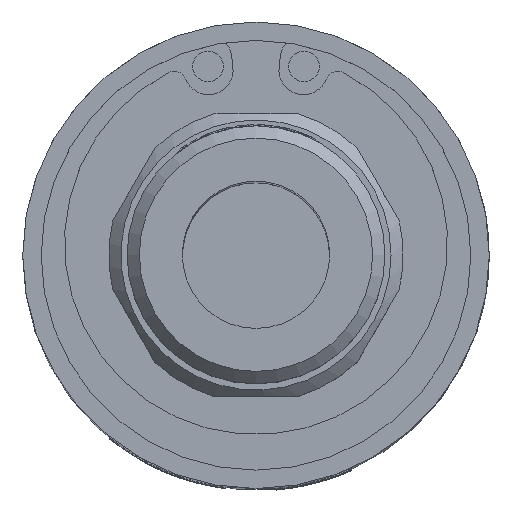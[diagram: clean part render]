
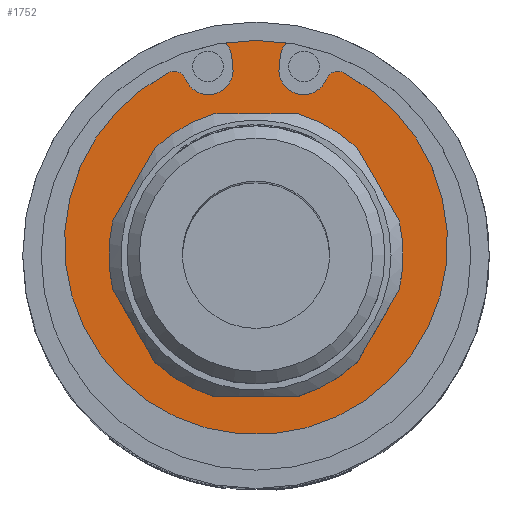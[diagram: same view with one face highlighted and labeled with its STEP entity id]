
A CAD part, top view. The second image highlights one B-rep face of the part: STEP entity #1752.
In plain terms, the highlighted planar face has unit normal (0, 0, 1).
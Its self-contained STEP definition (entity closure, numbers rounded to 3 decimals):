
#208=FACE_BOUND('',#4023,.T.);
#209=FACE_BOUND('',#4024,.T.);
#466=CIRCLE('',#18154,18.5);
#473=CIRCLE('',#18176,2.);
#474=CIRCLE('',#18177,2.);
#475=CIRCLE('',#18178,2.);
#476=CIRCLE('',#18179,1.);
#477=CIRCLE('',#18180,15.6);
#478=CIRCLE('',#18181,1.);
#479=CIRCLE('',#18182,2.);
#480=CIRCLE('',#18183,9.25);
#1752=ADVANCED_FACE('',(#208,#209),#2305,.T.);
#2305=PLANE('',#18184);
#4023=EDGE_LOOP('',(#8836,#8837,#8838,#8839,#8840,#8841,#8842,#8843,#8844,
#8845));
#4024=EDGE_LOOP('',(#8846));
#4576=LINE('',#34044,#5280);
#4577=LINE('',#34056,#5281);
#5280=VECTOR('',#19970,1.);
#5281=VECTOR('',#19981,1.);
#8836=ORIENTED_EDGE('',*,*,#14552,.F.);
#8837=ORIENTED_EDGE('',*,*,#14541,.T.);
#8838=ORIENTED_EDGE('',*,*,#14553,.T.);
#8839=ORIENTED_EDGE('',*,*,#14554,.F.);
#8840=ORIENTED_EDGE('',*,*,#14555,.F.);
#8841=ORIENTED_EDGE('',*,*,#14556,.T.);
#8842=ORIENTED_EDGE('',*,*,#14557,.F.);
#8843=ORIENTED_EDGE('',*,*,#14558,.F.);
#8844=ORIENTED_EDGE('',*,*,#14559,.T.);
#8845=ORIENTED_EDGE('',*,*,#14560,.T.);
#8846=ORIENTED_EDGE('',*,*,#14561,.F.);
#12094=VERTEX_POINT('',#34005);
#12095=VERTEX_POINT('',#34007);
#12103=VERTEX_POINT('',#34041);
#12104=VERTEX_POINT('',#34043);
#12105=VERTEX_POINT('',#34045);
#12106=VERTEX_POINT('',#34047);
#12107=VERTEX_POINT('',#34049);
#12108=VERTEX_POINT('',#34051);
#12109=VERTEX_POINT('',#34053);
#12110=VERTEX_POINT('',#34055);
#12111=VERTEX_POINT('',#34058);
#14541=EDGE_CURVE('',#12095,#12094,#466,.T.);
#14552=EDGE_CURVE('',#12095,#12103,#473,.T.);
#14553=EDGE_CURVE('',#12094,#12104,#474,.T.);
#14554=EDGE_CURVE('',#12105,#12104,#4576,.T.);
#14555=EDGE_CURVE('',#12106,#12105,#475,.T.);
#14556=EDGE_CURVE('',#12106,#12107,#476,.T.);
#14557=EDGE_CURVE('',#12108,#12107,#477,.T.);
#14558=EDGE_CURVE('',#12109,#12108,#478,.T.);
#14559=EDGE_CURVE('',#12109,#12110,#479,.T.);
#14560=EDGE_CURVE('',#12110,#12103,#4577,.T.);
#14561=EDGE_CURVE('',#12111,#12111,#480,.T.);
#18154=AXIS2_PLACEMENT_3D('',#34006,#19918,#19919);
#18176=AXIS2_PLACEMENT_3D('',#34040,#19966,#19967);
#18177=AXIS2_PLACEMENT_3D('',#34042,#19968,#19969);
#18178=AXIS2_PLACEMENT_3D('',#34046,#19971,#19972);
#18179=AXIS2_PLACEMENT_3D('',#34048,#19973,#19974);
#18180=AXIS2_PLACEMENT_3D('',#34050,#19975,#19976);
#18181=AXIS2_PLACEMENT_3D('',#34052,#19977,#19978);
#18182=AXIS2_PLACEMENT_3D('',#34054,#19979,#19980);
#18183=AXIS2_PLACEMENT_3D('',#34057,#19982,#19983);
#18184=AXIS2_PLACEMENT_3D('',#34059,#19984,#19985);
#19918=DIRECTION('',(0.,0.,1.));
#19919=DIRECTION('',(1.,0.,0.));
#19966=DIRECTION('',(0.,0.,1.));
#19967=DIRECTION('',(-1.,0.,0.));
#19968=DIRECTION('',(0.,0.,-1.));
#19969=DIRECTION('',(1.,0.,0.));
#19970=DIRECTION('',(-0.122,0.993,0.));
#19971=DIRECTION('',(0.,0.,1.));
#19972=DIRECTION('',(-1.,0.,0.));
#19973=DIRECTION('',(0.,0.,1.));
#19974=DIRECTION('',(1.,0.,0.));
#19975=DIRECTION('',(0.,0.,-1.));
#19976=DIRECTION('',(1.,0.,0.));
#19977=DIRECTION('',(0.,0.,-1.));
#19978=DIRECTION('',(-1.,0.,0.));
#19979=DIRECTION('',(0.,0.,-1.));
#19980=DIRECTION('',(1.,0.,0.));
#19981=DIRECTION('',(0.122,0.993,0.));
#19982=DIRECTION('',(0.,0.,1.));
#19983=DIRECTION('',(1.,0.,0.));
#19984=DIRECTION('',(0.,0.,1.));
#19985=DIRECTION('',(1.,0.,0.));
#34005=CARTESIAN_POINT('',(-4.464,17.953,55.5));
#34006=CARTESIAN_POINT('',(0.,0.,55.5));
#34007=CARTESIAN_POINT('',(4.464,17.953,55.5));
#34040=CARTESIAN_POINT('',(3.981,16.013,55.5));
#34041=CARTESIAN_POINT('',(1.996,16.256,55.5));
#34042=CARTESIAN_POINT('',(-3.981,16.013,55.5));
#34043=CARTESIAN_POINT('',(-1.996,16.256,55.5));
#34044=CARTESIAN_POINT('',(-0.061,0.496,55.5));
#34045=CARTESIAN_POINT('',(-1.882,15.328,55.5));
#34046=CARTESIAN_POINT('',(-3.867,15.084,55.5));
#34047=CARTESIAN_POINT('',(-5.73,14.356,55.5));
#34048=CARTESIAN_POINT('',(-6.661,13.992,55.5));
#34049=CARTESIAN_POINT('',(-7.118,14.882,55.5));
#34050=CARTESIAN_POINT('',(0.,1.,55.5));
#34051=CARTESIAN_POINT('',(7.118,14.882,55.5));
#34052=CARTESIAN_POINT('',(6.661,13.992,55.5));
#34053=CARTESIAN_POINT('',(5.73,14.356,55.5));
#34054=CARTESIAN_POINT('',(3.867,15.084,55.5));
#34055=CARTESIAN_POINT('',(1.882,15.328,55.5));
#34056=CARTESIAN_POINT('',(0.061,0.496,55.5));
#34057=CARTESIAN_POINT('',(0.,0.,55.5));
#34058=CARTESIAN_POINT('',(9.25,0.,55.5));
#34059=CARTESIAN_POINT('',(0.,0.,55.5));
